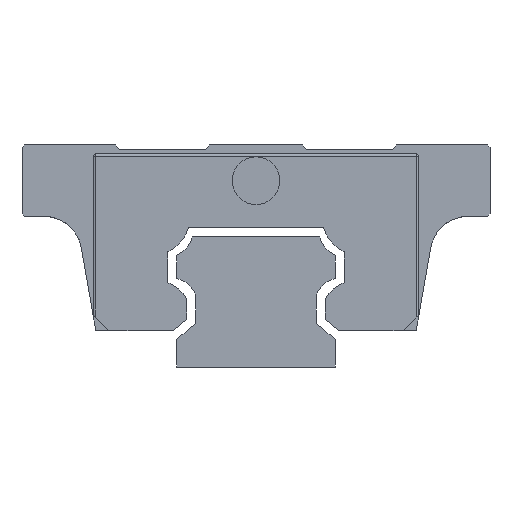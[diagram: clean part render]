
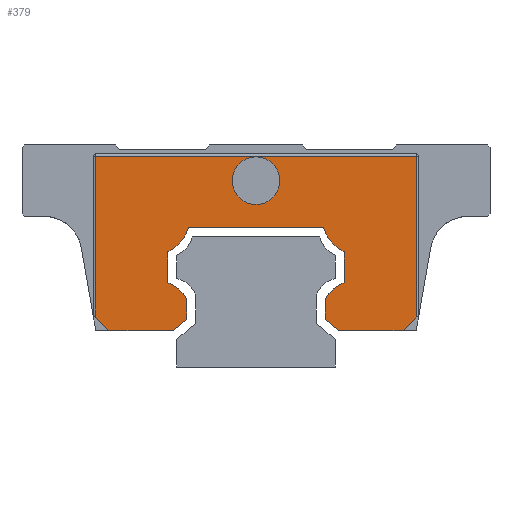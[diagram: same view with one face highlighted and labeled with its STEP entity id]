
A CAD part, left-side view. The second image highlights one B-rep face of the part: STEP entity #379.
In plain terms, the highlighted planar face has unit normal (-1, 0, 0).
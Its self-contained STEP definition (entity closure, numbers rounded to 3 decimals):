
#47=FACE_BOUND('',#702,.T.);
#48=FACE_BOUND('',#703,.T.);
#178=PLANE('',#2628);
#245=CIRCLE('',#2602,4.625);
#247=CIRCLE('',#2606,4.625);
#248=CIRCLE('',#2621,4.625);
#249=CIRCLE('',#2624,4.625);
#250=CIRCLE('',#2627,3.);
#379=ADVANCED_FACE('',(#47,#48),#178,.T.);
#702=EDGE_LOOP('',(#1015));
#703=EDGE_LOOP('',(#1016,#1017,#1018,#1019,#1020,#1021,#1022,#1023,#1024,
#1025,#1026,#1027,#1028,#1029,#1030,#1031,#1032,#1033));
#1015=ORIENTED_EDGE('',*,*,#1918,.F.);
#1016=ORIENTED_EDGE('',*,*,#1869,.T.);
#1017=ORIENTED_EDGE('',*,*,#1919,.T.);
#1018=ORIENTED_EDGE('',*,*,#1920,.T.);
#1019=ORIENTED_EDGE('',*,*,#1921,.T.);
#1020=ORIENTED_EDGE('',*,*,#1882,.T.);
#1021=ORIENTED_EDGE('',*,*,#1892,.T.);
#1022=ORIENTED_EDGE('',*,*,#1895,.T.);
#1023=ORIENTED_EDGE('',*,*,#1900,.T.);
#1024=ORIENTED_EDGE('',*,*,#1902,.T.);
#1025=ORIENTED_EDGE('',*,*,#1909,.T.);
#1026=ORIENTED_EDGE('',*,*,#1911,.T.);
#1027=ORIENTED_EDGE('',*,*,#1917,.T.);
#1028=ORIENTED_EDGE('',*,*,#1840,.T.);
#1029=ORIENTED_EDGE('',*,*,#1848,.T.);
#1030=ORIENTED_EDGE('',*,*,#1851,.T.);
#1031=ORIENTED_EDGE('',*,*,#1856,.T.);
#1032=ORIENTED_EDGE('',*,*,#1859,.T.);
#1033=ORIENTED_EDGE('',*,*,#1866,.T.);
#1605=VERTEX_POINT('',#3679);
#1606=VERTEX_POINT('',#3681);
#1612=VERTEX_POINT('',#3695);
#1614=VERTEX_POINT('',#3701);
#1618=VERTEX_POINT('',#3711);
#1620=VERTEX_POINT('',#3717);
#1626=VERTEX_POINT('',#3731);
#1629=VERTEX_POINT('',#3741);
#1640=VERTEX_POINT('',#3770);
#1641=VERTEX_POINT('',#3771);
#1648=VERTEX_POINT('',#3788);
#1650=VERTEX_POINT('',#3794);
#1653=VERTEX_POINT('',#3803);
#1654=VERTEX_POINT('',#3807);
#1659=VERTEX_POINT('',#3820);
#1660=VERTEX_POINT('',#3824);
#1665=VERTEX_POINT('',#3839);
#1666=VERTEX_POINT('',#3841);
#1667=VERTEX_POINT('',#3843);
#1840=EDGE_CURVE('',#1606,#1605,#245,.T.);
#1848=EDGE_CURVE('',#1605,#1612,#2184,.T.);
#1851=EDGE_CURVE('',#1612,#1614,#247,.T.);
#1856=EDGE_CURVE('',#1614,#1618,#2190,.T.);
#1859=EDGE_CURVE('',#1618,#1620,#2193,.T.);
#1866=EDGE_CURVE('',#1620,#1626,#2200,.T.);
#1869=EDGE_CURVE('',#1626,#1629,#2201,.T.);
#1882=EDGE_CURVE('',#1640,#1641,#2214,.T.);
#1892=EDGE_CURVE('',#1641,#1648,#2223,.T.);
#1895=EDGE_CURVE('',#1648,#1650,#2226,.T.);
#1900=EDGE_CURVE('',#1650,#1653,#2231,.T.);
#1902=EDGE_CURVE('',#1653,#1654,#248,.T.);
#1909=EDGE_CURVE('',#1654,#1659,#2239,.T.);
#1911=EDGE_CURVE('',#1659,#1660,#249,.T.);
#1917=EDGE_CURVE('',#1660,#1606,#2246,.T.);
#1918=EDGE_CURVE('',#1665,#1665,#250,.T.);
#1919=EDGE_CURVE('',#1629,#1666,#2247,.T.);
#1920=EDGE_CURVE('',#1666,#1667,#2248,.T.);
#1921=EDGE_CURVE('',#1667,#1640,#2249,.T.);
#2184=LINE('',#3696,#2396);
#2190=LINE('',#3712,#2402);
#2193=LINE('',#3718,#2405);
#2200=LINE('',#3732,#2412);
#2201=LINE('',#3742,#2413);
#2214=LINE('',#3769,#2426);
#2223=LINE('',#3789,#2435);
#2226=LINE('',#3795,#2438);
#2231=LINE('',#3804,#2443);
#2239=LINE('',#3821,#2451);
#2246=LINE('',#3836,#2458);
#2247=LINE('',#3840,#2459);
#2248=LINE('',#3842,#2460);
#2249=LINE('',#3844,#2461);
#2396=VECTOR('',#2903,1.);
#2402=VECTOR('',#2917,1.);
#2405=VECTOR('',#2922,1.);
#2412=VECTOR('',#2931,1.);
#2413=VECTOR('',#2936,1.);
#2426=VECTOR('',#2957,1.);
#2435=VECTOR('',#2970,1.);
#2438=VECTOR('',#2975,1.);
#2443=VECTOR('',#2982,1.);
#2451=VECTOR('',#2996,1.);
#2458=VECTOR('',#3009,1.);
#2459=VECTOR('',#3014,1.);
#2460=VECTOR('',#3015,1.);
#2461=VECTOR('',#3016,1.);
#2602=AXIS2_PLACEMENT_3D('',#3680,#2892,#2893);
#2606=AXIS2_PLACEMENT_3D('',#3702,#2909,#2910);
#2621=AXIS2_PLACEMENT_3D('',#3808,#2986,#2987);
#2624=AXIS2_PLACEMENT_3D('',#3825,#3000,#3001);
#2627=AXIS2_PLACEMENT_3D('',#3838,#3012,#3013);
#2628=AXIS2_PLACEMENT_3D('',#3845,#3017,#3018);
#2892=DIRECTION('',(-1.,0.,0.));
#2893=DIRECTION('',(0.,1.,0.));
#2903=DIRECTION('',(0.,0.,-1.));
#2909=DIRECTION('',(-1.,0.,0.));
#2910=DIRECTION('',(0.,1.,0.));
#2917=DIRECTION('',(0.,0.,-1.));
#2922=DIRECTION('',(0.,-0.766,-0.643));
#2931=DIRECTION('',(0.,-1.,0.));
#2936=DIRECTION('',(0.,-0.707,0.707));
#2957=DIRECTION('',(0.,-0.707,-0.707));
#2970=DIRECTION('',(0.,-1.,0.));
#2975=DIRECTION('',(0.,-0.766,0.643));
#2982=DIRECTION('',(0.,0.,1.));
#2986=DIRECTION('',(-1.,0.,0.));
#2987=DIRECTION('',(0.,-1.,0.));
#2996=DIRECTION('',(0.,0.,1.));
#3000=DIRECTION('',(-1.,0.,0.));
#3001=DIRECTION('',(0.,-1.,0.));
#3009=DIRECTION('',(0.,-1.,0.));
#3012=DIRECTION('',(-1.,0.,0.));
#3013=DIRECTION('',(0.,1.,0.));
#3014=DIRECTION('',(0.,0.,1.));
#3015=DIRECTION('',(0.,1.,0.));
#3016=DIRECTION('',(0.,0.,-1.));
#3017=DIRECTION('',(-1.,0.,0.));
#3018=DIRECTION('',(0.,0.,1.));
#3679=CARTESIAN_POINT('',(-34.15,-11.125,14.526));
#3680=CARTESIAN_POINT('',(-34.15,-13.011,18.749));
#3681=CARTESIAN_POINT('',(-34.15,-8.525,17.625));
#3695=CARTESIAN_POINT('',(-34.15,-11.125,10.642));
#3696=CARTESIAN_POINT('',(-34.15,-11.125,14.526));
#3701=CARTESIAN_POINT('',(-34.15,-8.741,8.642));
#3702=CARTESIAN_POINT('',(-34.15,-12.733,6.306));
#3711=CARTESIAN_POINT('',(-34.15,-8.741,6.025));
#3712=CARTESIAN_POINT('',(-34.15,-8.741,8.642));
#3717=CARTESIAN_POINT('',(-34.15,-10.439,4.6));
#3718=CARTESIAN_POINT('',(-34.15,-8.741,6.025));
#3731=CARTESIAN_POINT('',(-34.15,-18.536,4.6));
#3732=CARTESIAN_POINT('',(-34.15,-10.439,4.6));
#3741=CARTESIAN_POINT('',(-34.15,-20.247,6.311));
#3742=CARTESIAN_POINT('',(-34.15,-18.536,4.6));
#3769=CARTESIAN_POINT('',(-34.15,20.542,6.6));
#3770=CARTESIAN_POINT('',(-34.15,20.247,6.305));
#3771=CARTESIAN_POINT('',(-34.15,18.542,4.6));
#3788=CARTESIAN_POINT('',(-34.15,10.439,4.6));
#3789=CARTESIAN_POINT('',(-34.15,18.542,4.6));
#3794=CARTESIAN_POINT('',(-34.15,8.741,6.025));
#3795=CARTESIAN_POINT('',(-34.15,10.439,4.6));
#3803=CARTESIAN_POINT('',(-34.15,8.741,8.642));
#3804=CARTESIAN_POINT('',(-34.15,8.741,6.025));
#3807=CARTESIAN_POINT('',(-34.15,11.125,10.642));
#3808=CARTESIAN_POINT('',(-34.15,12.733,6.306));
#3820=CARTESIAN_POINT('',(-34.15,11.125,14.526));
#3821=CARTESIAN_POINT('',(-34.15,11.125,10.642));
#3824=CARTESIAN_POINT('',(-34.15,8.525,17.625));
#3825=CARTESIAN_POINT('',(-34.15,13.011,18.749));
#3836=CARTESIAN_POINT('',(-34.15,8.525,17.625));
#3838=CARTESIAN_POINT('',(-34.15,0.,23.5));
#3839=CARTESIAN_POINT('',(-34.15,3.,23.5));
#3840=CARTESIAN_POINT('',(-34.15,-20.247,26.875));
#3841=CARTESIAN_POINT('',(-34.15,-20.247,26.58));
#3842=CARTESIAN_POINT('',(-34.15,20.542,26.58));
#3843=CARTESIAN_POINT('',(-34.15,20.247,26.58));
#3844=CARTESIAN_POINT('',(-34.15,20.247,6.6));
#3845=CARTESIAN_POINT('',(-34.15,-13.011,18.749));
